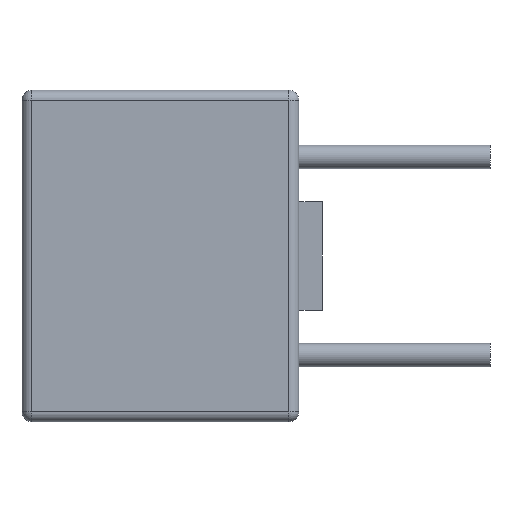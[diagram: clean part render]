
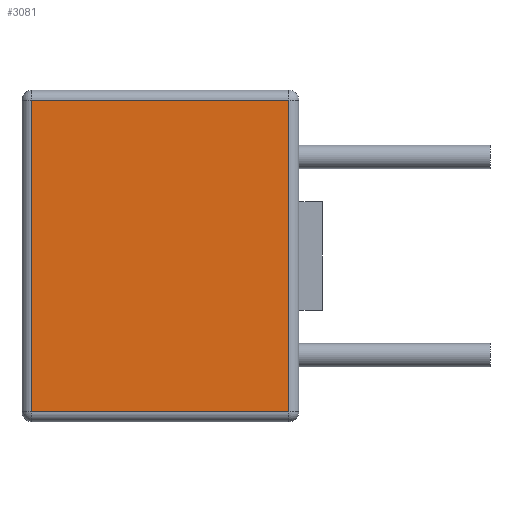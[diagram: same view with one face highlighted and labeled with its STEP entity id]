
A CAD part, left-side view. The second image highlights one B-rep face of the part: STEP entity #3081.
In plain terms, the highlighted planar face has unit normal (-1, 0, 0).
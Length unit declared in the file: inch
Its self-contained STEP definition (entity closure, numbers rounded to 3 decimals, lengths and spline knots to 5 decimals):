
#314=FACE_OUTER_BOUND('',#500,.T.);
#500=EDGE_LOOP('',(#2775,#2776,#2777,#2778));
#896=LINE('',#5702,#1172);
#900=LINE('',#5715,#1176);
#903=LINE('',#5719,#1179);
#905=LINE('',#5722,#1181);
#1172=VECTOR('',#3723,0.3937);
#1176=VECTOR('',#3739,0.3937);
#1179=VECTOR('',#3744,0.3937);
#1181=VECTOR('',#3748,0.3937);
#1459=VERTEX_POINT('',#5670);
#1466=VERTEX_POINT('',#5688);
#1468=VERTEX_POINT('',#5693);
#1471=VERTEX_POINT('',#5706);
#1891=EDGE_CURVE('',#1459,#1468,#896,.T.);
#1898=EDGE_CURVE('',#1468,#1471,#900,.T.);
#1901=EDGE_CURVE('',#1471,#1466,#903,.T.);
#1903=EDGE_CURVE('',#1466,#1459,#905,.T.);
#2775=ORIENTED_EDGE('',*,*,#1891,.F.);
#2776=ORIENTED_EDGE('',*,*,#1903,.F.);
#2777=ORIENTED_EDGE('',*,*,#1901,.F.);
#2778=ORIENTED_EDGE('',*,*,#1898,.F.);
#2866=PLANE('',#3233);
#3081=ADVANCED_FACE('',(#314),#2866,.T.);
#3233=AXIS2_PLACEMENT_3D('',#5738,#3772,#3773);
#3723=DIRECTION('',(0.,-1.,0.));
#3739=DIRECTION('',(0.,0.,-1.));
#3744=DIRECTION('',(0.,1.,0.));
#3748=DIRECTION('',(0.,0.,1.));
#3772=DIRECTION('center_axis',(-1.,0.,0.));
#3773=DIRECTION('ref_axis',(0.,0.,1.));
#5670=CARTESIAN_POINT('',(-0.08465,0.26953,0.15732));
#5688=CARTESIAN_POINT('',(-0.08465,0.26953,-0.15732));
#5693=CARTESIAN_POINT('',(-0.08465,0.01,0.15732));
#5702=CARTESIAN_POINT('',(-0.08465,0.,0.15732));
#5706=CARTESIAN_POINT('',(-0.08465,0.01,-0.15732));
#5715=CARTESIAN_POINT('',(-0.08465,0.01,-0.08366));
#5719=CARTESIAN_POINT('',(-0.08465,0.,-0.15732));
#5722=CARTESIAN_POINT('',(-0.08465,0.26953,-0.08366));
#5738=CARTESIAN_POINT('Origin',(-0.08465,0.,-0.16732));
